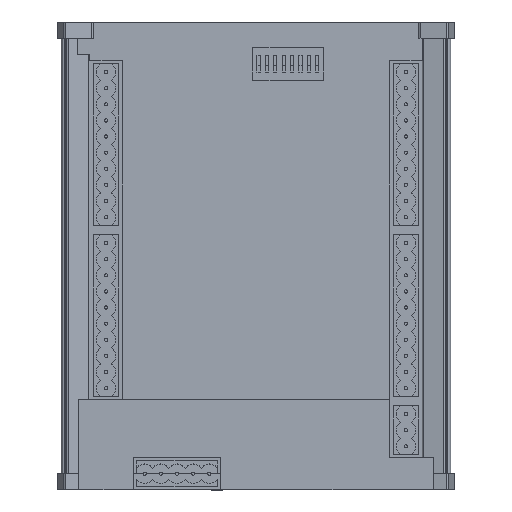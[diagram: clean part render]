
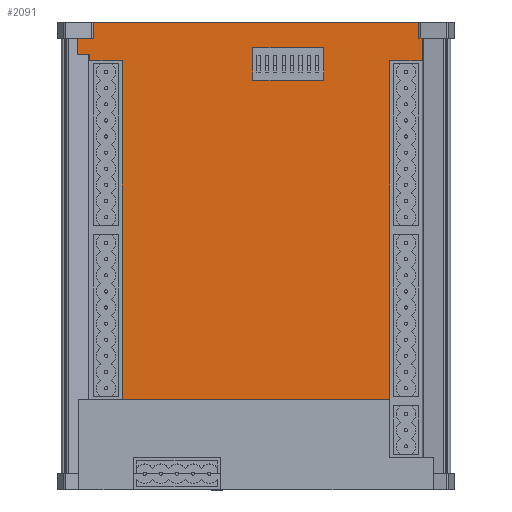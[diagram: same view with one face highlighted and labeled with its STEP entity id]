
A CAD part, top view. The second image highlights one B-rep face of the part: STEP entity #2091.
In plain terms, the highlighted planar face has unit normal (0, 0, 1).
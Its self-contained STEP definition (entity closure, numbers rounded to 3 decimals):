
#2091=ADVANCED_FACE('',(#3216),#2681,.T.);
#2681=PLANE('',#13712);
#3216=FACE_OUTER_BOUND('',#3860,.T.);
#3860=EDGE_LOOP('',(#6156,#6157,#6158,#6159,#6160,#6161,#6162,#6163,#6164,
#6165,#6166,#6167,#6168,#6169));
#6156=ORIENTED_EDGE('',*,*,#9918,.F.);
#6157=ORIENTED_EDGE('',*,*,#9919,.F.);
#6158=ORIENTED_EDGE('',*,*,#9920,.T.);
#6159=ORIENTED_EDGE('',*,*,#9921,.T.);
#6160=ORIENTED_EDGE('',*,*,#9915,.T.);
#6161=ORIENTED_EDGE('',*,*,#9922,.T.);
#6162=ORIENTED_EDGE('',*,*,#9923,.T.);
#6163=ORIENTED_EDGE('',*,*,#9924,.F.);
#6164=ORIENTED_EDGE('',*,*,#9925,.T.);
#6165=ORIENTED_EDGE('',*,*,#9926,.T.);
#6166=ORIENTED_EDGE('',*,*,#9927,.T.);
#6167=ORIENTED_EDGE('',*,*,#9928,.T.);
#6168=ORIENTED_EDGE('',*,*,#9929,.T.);
#6169=ORIENTED_EDGE('',*,*,#9930,.T.);
#8429=VERTEX_POINT('',#19835);
#8430=VERTEX_POINT('',#19837);
#8432=VERTEX_POINT('',#19843);
#8433=VERTEX_POINT('',#19844);
#8434=VERTEX_POINT('',#19846);
#8435=VERTEX_POINT('',#19848);
#8436=VERTEX_POINT('',#19851);
#8437=VERTEX_POINT('',#19853);
#8438=VERTEX_POINT('',#19855);
#8439=VERTEX_POINT('',#19857);
#8440=VERTEX_POINT('',#19859);
#8441=VERTEX_POINT('',#19861);
#8442=VERTEX_POINT('',#19863);
#8443=VERTEX_POINT('',#19865);
#9915=EDGE_CURVE('',#8430,#8429,#11447,.T.);
#9918=EDGE_CURVE('',#8432,#8433,#11450,.T.);
#9919=EDGE_CURVE('',#8434,#8432,#11451,.T.);
#9920=EDGE_CURVE('',#8434,#8435,#11452,.T.);
#9921=EDGE_CURVE('',#8435,#8430,#11453,.T.);
#9922=EDGE_CURVE('',#8429,#8436,#11454,.T.);
#9923=EDGE_CURVE('',#8436,#8437,#11455,.T.);
#9924=EDGE_CURVE('',#8438,#8437,#11456,.T.);
#9925=EDGE_CURVE('',#8438,#8439,#11457,.T.);
#9926=EDGE_CURVE('',#8439,#8440,#11458,.T.);
#9927=EDGE_CURVE('',#8440,#8441,#11459,.T.);
#9928=EDGE_CURVE('',#8441,#8442,#11460,.T.);
#9929=EDGE_CURVE('',#8442,#8443,#11461,.T.);
#9930=EDGE_CURVE('',#8443,#8433,#11462,.T.);
#11447=LINE('',#19836,#12688);
#11450=LINE('',#19842,#12691);
#11451=LINE('',#19845,#12692);
#11452=LINE('',#19847,#12693);
#11453=LINE('',#19849,#12694);
#11454=LINE('',#19850,#12695);
#11455=LINE('',#19852,#12696);
#11456=LINE('',#19854,#12697);
#11457=LINE('',#19856,#12698);
#11458=LINE('',#19858,#12699);
#11459=LINE('',#19860,#12700);
#11460=LINE('',#19862,#12701);
#11461=LINE('',#19864,#12702);
#11462=LINE('',#19866,#12703);
#12688=VECTOR('',#16121,1.);
#12691=VECTOR('',#16126,1.);
#12692=VECTOR('',#16127,1.);
#12693=VECTOR('',#16128,1.);
#12694=VECTOR('',#16129,1.);
#12695=VECTOR('',#16130,1.);
#12696=VECTOR('',#16131,1.);
#12697=VECTOR('',#16132,1.);
#12698=VECTOR('',#16133,1.);
#12699=VECTOR('',#16134,1.);
#12700=VECTOR('',#16135,1.);
#12701=VECTOR('',#16136,1.);
#12702=VECTOR('',#16137,1.);
#12703=VECTOR('',#16138,1.);
#13712=AXIS2_PLACEMENT_3D('',#19867,#16139,#16140);
#16121=DIRECTION('',(1.,0.,0.));
#16126=DIRECTION('',(-1.,0.,0.));
#16127=DIRECTION('',(0.,1.,0.));
#16128=DIRECTION('',(1.,0.,0.));
#16129=DIRECTION('',(0.,1.,0.));
#16130=DIRECTION('',(0.,1.,0.));
#16131=DIRECTION('',(-1.,0.,0.));
#16132=DIRECTION('',(0.,-1.,0.));
#16133=DIRECTION('',(-1.,0.,0.));
#16134=DIRECTION('',(0.,-1.,0.));
#16135=DIRECTION('',(-1.,0.,0.));
#16136=DIRECTION('',(0.,-1.,0.));
#16137=DIRECTION('',(1.,0.,0.));
#16138=DIRECTION('',(0.,-1.,0.));
#16139=DIRECTION('',(0.,0.,1.));
#16140=DIRECTION('',(-1.,0.,0.));
#19835=CARTESIAN_POINT('',(51.479,60.5,8.415));
#19836=CARTESIAN_POINT('',(-46.479,60.5,8.415));
#19837=CARTESIAN_POINT('',(41.479,60.5,8.415));
#19842=CARTESIAN_POINT('',(40.979,60.5,8.415));
#19843=CARTESIAN_POINT('',(-41.479,60.5,8.415));
#19844=CARTESIAN_POINT('',(-51.479,60.5,8.415));
#19845=CARTESIAN_POINT('',(-41.479,55.5,8.415));
#19846=CARTESIAN_POINT('',(-41.479,-44.5,8.415));
#19847=CARTESIAN_POINT('',(0.,-44.5,8.415));
#19848=CARTESIAN_POINT('',(41.479,-44.5,8.415));
#19849=CARTESIAN_POINT('',(41.479,-44.5,8.415));
#19850=CARTESIAN_POINT('',(51.479,55.5,8.415));
#19851=CARTESIAN_POINT('',(51.479,67.5,8.415));
#19852=CARTESIAN_POINT('',(46.041,67.5,8.415));
#19853=CARTESIAN_POINT('',(50.479,67.5,8.415));
#19854=CARTESIAN_POINT('',(50.479,55.5,8.415));
#19855=CARTESIAN_POINT('',(50.479,72.5,8.415));
#19856=CARTESIAN_POINT('',(40.979,72.5,8.415));
#19857=CARTESIAN_POINT('',(-50.479,72.5,8.415));
#19858=CARTESIAN_POINT('',(-50.479,55.5,8.415));
#19859=CARTESIAN_POINT('',(-50.479,67.5,8.415));
#19860=CARTESIAN_POINT('',(46.041,67.5,8.415));
#19861=CARTESIAN_POINT('',(-55.479,67.5,8.415));
#19862=CARTESIAN_POINT('',(-55.479,-67.5,8.415));
#19863=CARTESIAN_POINT('',(-55.479,62.5,8.415));
#19864=CARTESIAN_POINT('',(0.,62.5,8.415));
#19865=CARTESIAN_POINT('',(-51.479,62.5,8.415));
#19866=CARTESIAN_POINT('',(-51.479,-67.5,8.415));
#19867=CARTESIAN_POINT('',(40.979,55.5,8.415));
